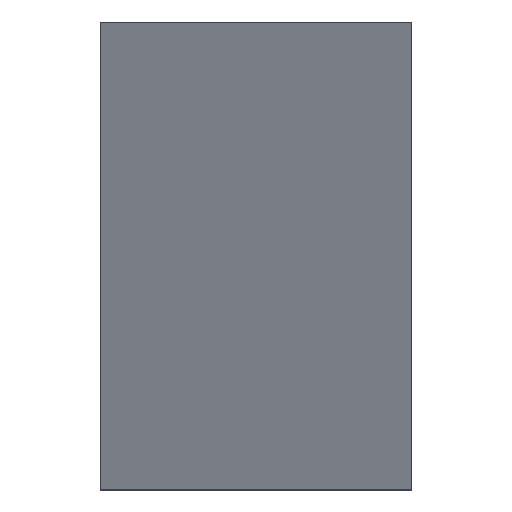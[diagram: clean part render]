
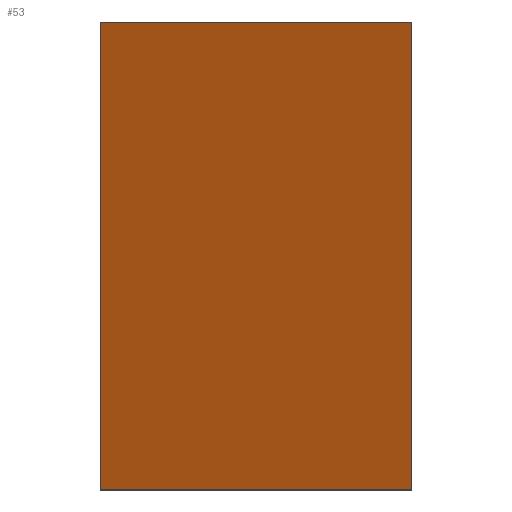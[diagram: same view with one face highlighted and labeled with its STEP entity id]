
A CAD part, top view. The second image highlights one B-rep face of the part: STEP entity #53.
In plain terms, the highlighted planar face has unit normal (0, -0.365, 0.931).
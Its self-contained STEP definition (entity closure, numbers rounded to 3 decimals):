
#26 = CARTESIAN_POINT ( 'NONE',  ( 36.75, -31., 1.5 ) ) ;
#27 = FACE_OUTER_BOUND ( 'NONE', #168, .T. ) ;
#28 = CARTESIAN_POINT ( 'NONE',  ( 32.75, -24.609, 4.003 ) ) ;
#34 = EDGE_CURVE ( 'NONE', #211, #163, #36, .T. ) ;
#36 = LINE ( 'NONE', #28, #190 ) ;
#44 = LINE ( 'NONE', #60, #144 ) ;
#48 = AXIS2_PLACEMENT_3D ( 'NONE', #149, #182, #90 ) ;
#53 = ADVANCED_FACE ( 'NONE', ( #27 ), #75, .F. ) ;
#54 = ORIENTED_EDGE ( 'NONE', *, *, #183, .F. ) ;
#56 = CARTESIAN_POINT ( 'NONE',  ( 250.421, -31., 1.5 ) ) ;
#58 = VECTOR ( 'NONE', #118, 1000. ) ;
#60 = CARTESIAN_POINT ( 'NONE',  ( 36.75, -24.609, 4.003 ) ) ;
#63 = CARTESIAN_POINT ( 'NONE',  ( 32.75, -25., 3.85 ) ) ;
#74 = ORIENTED_EDGE ( 'NONE', *, *, #137, .T. ) ;
#75 = PLANE ( 'NONE',  #48 ) ;
#82 = CARTESIAN_POINT ( 'NONE',  ( 250.421, -25., 3.85 ) ) ;
#90 = DIRECTION ( 'NONE',  ( 0., 0.931, 0.365 ) ) ;
#110 = VERTEX_POINT ( 'NONE', #26 ) ;
#111 = DIRECTION ( 'NONE',  ( 0., 0.931, 0.365 ) ) ;
#118 = DIRECTION ( 'NONE',  ( -1., 0., 0. ) ) ;
#123 = EDGE_CURVE ( 'NONE', #110, #211, #230, .T. ) ;
#131 = DIRECTION ( 'NONE',  ( -1., 0., 0. ) ) ;
#135 = DIRECTION ( 'NONE',  ( 0., -0.931, -0.365 ) ) ;
#137 = EDGE_CURVE ( 'NONE', #201, #163, #174, .T. ) ;
#144 = VECTOR ( 'NONE', #135, 1000. ) ;
#149 = CARTESIAN_POINT ( 'NONE',  ( 250.421, -25., 3.85 ) ) ;
#151 = ORIENTED_EDGE ( 'NONE', *, *, #123, .F. ) ;
#163 = VERTEX_POINT ( 'NONE', #63 ) ;
#164 = VECTOR ( 'NONE', #131, 1000. ) ;
#168 = EDGE_LOOP ( 'NONE', ( #185, #151, #54, #74 ) ) ;
#173 = CARTESIAN_POINT ( 'NONE',  ( 36.75, -25., 3.85 ) ) ;
#174 = LINE ( 'NONE', #82, #58 ) ;
#182 = DIRECTION ( 'NONE',  ( 0., 0.365, -0.931 ) ) ;
#183 = EDGE_CURVE ( 'NONE', #201, #110, #44, .T. ) ;
#185 = ORIENTED_EDGE ( 'NONE', *, *, #34, .F. ) ;
#190 = VECTOR ( 'NONE', #111, 1000. ) ;
#201 = VERTEX_POINT ( 'NONE', #173 ) ;
#211 = VERTEX_POINT ( 'NONE', #216 ) ;
#216 = CARTESIAN_POINT ( 'NONE',  ( 32.75, -31., 1.5 ) ) ;
#230 = LINE ( 'NONE', #56, #164 ) ;
